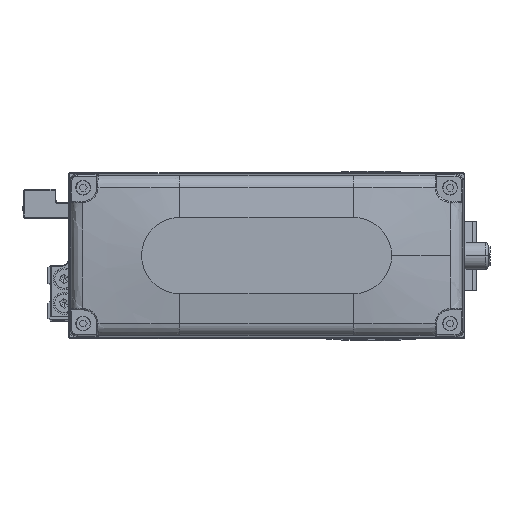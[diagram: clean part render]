
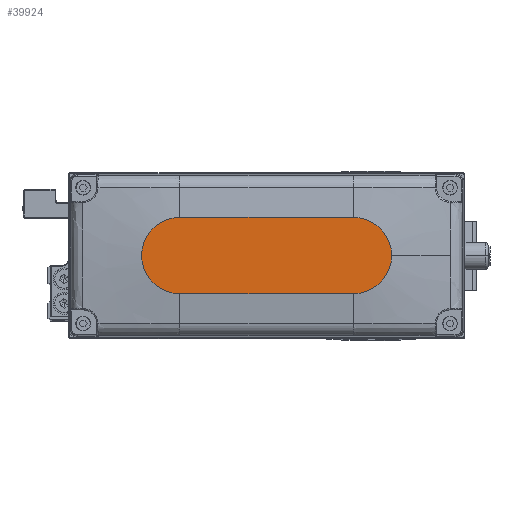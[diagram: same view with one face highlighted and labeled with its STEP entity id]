
A CAD part, top view. The second image highlights one B-rep face of the part: STEP entity #39924.
In plain terms, the highlighted planar face has unit normal (0, 0, 1).
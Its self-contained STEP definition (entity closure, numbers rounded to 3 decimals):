
#162 = EDGE_LOOP ( 'NONE', ( #12155, #17162, #43864, #22723, #34194 ) ) ;
#1426 = DIRECTION ( 'NONE',  ( -1., 0., 0. ) ) ;
#1632 = DIRECTION ( 'NONE',  ( 0., 0., 1. ) ) ;
#3189 = EDGE_CURVE ( 'NONE', #28474, #26933, #18422, .T. ) ;
#4273 = CARTESIAN_POINT ( 'NONE',  ( 32., 0., 35. ) ) ;
#4903 = CARTESIAN_POINT ( 'NONE',  ( 46., 0., 35. ) ) ;
#5714 = VERTEX_POINT ( 'NONE', #24259 ) ;
#6644 = DIRECTION ( 'NONE',  ( 1., 0., 0. ) ) ;
#7346 = DIRECTION ( 'NONE',  ( 0., 0., 1. ) ) ;
#7555 = LINE ( 'NONE', #21201, #9813 ) ;
#7907 = VERTEX_POINT ( 'NONE', #4903 ) ;
#9813 = VECTOR ( 'NONE', #34850, 1000. ) ;
#9923 = VECTOR ( 'NONE', #1426, 1000. ) ;
#10703 = FACE_OUTER_BOUND ( 'NONE', #162, .T. ) ;
#12155 = ORIENTED_EDGE ( 'NONE', *, *, #3189, .T. ) ;
#15295 = DIRECTION ( 'NONE',  ( 1., 0., 0. ) ) ;
#16278 = CIRCLE ( 'NONE', #41263, 14. ) ;
#17162 = ORIENTED_EDGE ( 'NONE', *, *, #41501, .T. ) ;
#17920 = DIRECTION ( 'NONE',  ( 0., 0., 1. ) ) ;
#18422 = LINE ( 'NONE', #32059, #9923 ) ;
#18900 = CIRCLE ( 'NONE', #43875, 14. ) ;
#19876 = AXIS2_PLACEMENT_3D ( 'NONE', #23641, #37267, #6644 ) ;
#20993 = DIRECTION ( 'NONE',  ( 1., 0., 0. ) ) ;
#21201 = CARTESIAN_POINT ( 'NONE',  ( -32., -14., 35. ) ) ;
#22723 = ORIENTED_EDGE ( 'NONE', *, *, #40963, .T. ) ;
#23641 = CARTESIAN_POINT ( 'NONE',  ( -32., 0., 35. ) ) ;
#24259 = CARTESIAN_POINT ( 'NONE',  ( 32., -14., 35. ) ) ;
#24345 = PLANE ( 'NONE',  #31917 ) ;
#25639 = CARTESIAN_POINT ( 'NONE',  ( -32., -14., 35. ) ) ;
#26820 = CARTESIAN_POINT ( 'NONE',  ( -32., 14., 35. ) ) ;
#26933 = VERTEX_POINT ( 'NONE', #26820 ) ;
#28474 = VERTEX_POINT ( 'NONE', #32003 ) ;
#30500 = EDGE_CURVE ( 'NONE', #38873, #5714, #7555, .T. ) ;
#31567 = DIRECTION ( 'NONE',  ( 1., 0., 0. ) ) ;
#31917 = AXIS2_PLACEMENT_3D ( 'NONE', #37989, #7346, #20993 ) ;
#32003 = CARTESIAN_POINT ( 'NONE',  ( 32., 14., 35. ) ) ;
#32059 = CARTESIAN_POINT ( 'NONE',  ( -32., 14., 35. ) ) ;
#32263 = CARTESIAN_POINT ( 'NONE',  ( 32., 0., 35. ) ) ;
#34194 = ORIENTED_EDGE ( 'NONE', *, *, #36667, .T. ) ;
#34850 = DIRECTION ( 'NONE',  ( 1., 0., 0. ) ) ;
#36667 = EDGE_CURVE ( 'NONE', #7907, #28474, #18900, .T. ) ;
#37267 = DIRECTION ( 'NONE',  ( 0., 0., 1. ) ) ;
#37989 = CARTESIAN_POINT ( 'NONE',  ( 0., 0., 35. ) ) ;
#38873 = VERTEX_POINT ( 'NONE', #25639 ) ;
#39152 = CIRCLE ( 'NONE', #19876, 14. ) ;
#39924 = ADVANCED_FACE ( 'NONE', ( #10703 ), #24345, .T. ) ;
#40963 = EDGE_CURVE ( 'NONE', #5714, #7907, #16278, .T. ) ;
#41263 = AXIS2_PLACEMENT_3D ( 'NONE', #32263, #1632, #15295 ) ;
#41501 = EDGE_CURVE ( 'NONE', #26933, #38873, #39152, .T. ) ;
#43864 = ORIENTED_EDGE ( 'NONE', *, *, #30500, .T. ) ;
#43875 = AXIS2_PLACEMENT_3D ( 'NONE', #4273, #17920, #31567 ) ;
